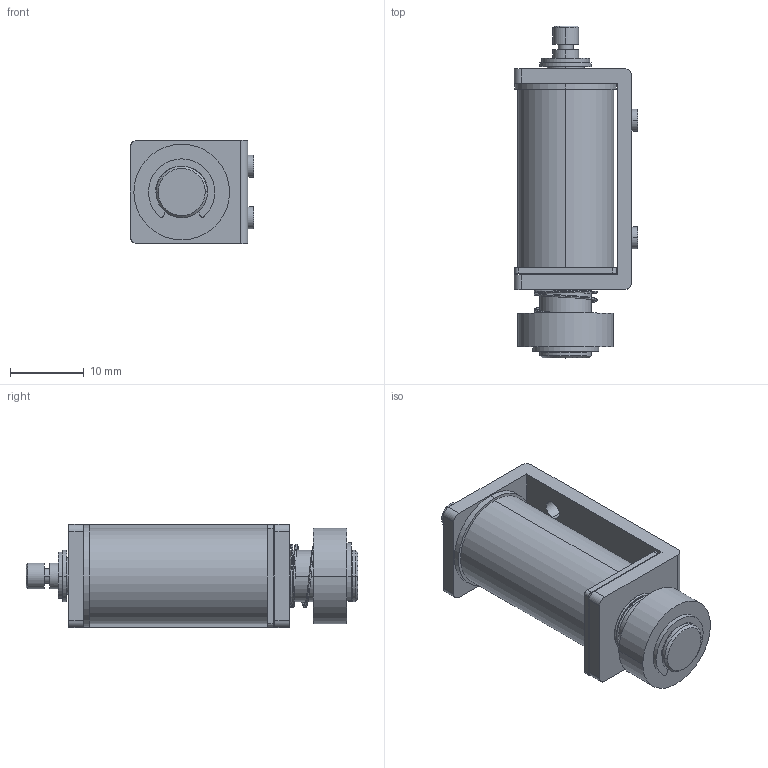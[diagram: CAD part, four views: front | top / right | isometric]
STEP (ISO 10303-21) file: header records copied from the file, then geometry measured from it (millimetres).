
FILE_DESCRIPTION (( 'STEP AP203' ), '1' );
FILE_NAME ('w_cb0730.STEP', '2014-07-16T03:07:09', ( 'jiba' ), ( 'Hewlett-Packard Company' ), 'SwSTEP 2.0', 'SolidWorks 2014', '' );
FILE_SCHEMA (( 'CONFIG_CONTROL_DESIGN' ));
Length unit declared in the file: millimetre
Products named in the file (4): Part1^w_cb0730; w_cb0730; Part1^w_cb0730_pl組; w_20730080
Assembly tree (3 placements, depth 2):
  w_cb0730
    Part1^w_cb0730
    Part1^w_cb0730_pl組
    w_20730080
Bounding box: 16.8 x 45.1 x 14 mm (x, y, z)
Volume: 5688.9 mm3; surface area: 6735.2 mm2
Topology: 3 solids, 3 shells, 150 faces, 378 edges, 248 vertices
Faces by surface type: cylinder 86, plane 58, cone 4, bspline 2
Entity records: 7748 total; most frequent: CARTESIAN_POINT 3530, DIRECTION 880, ORIENTED_EDGE 756, EDGE_CURVE 378, AXIS2_PLACEMENT_3D 354, VERTEX_POINT 248, CIRCLE 200, EDGE_LOOP 176
